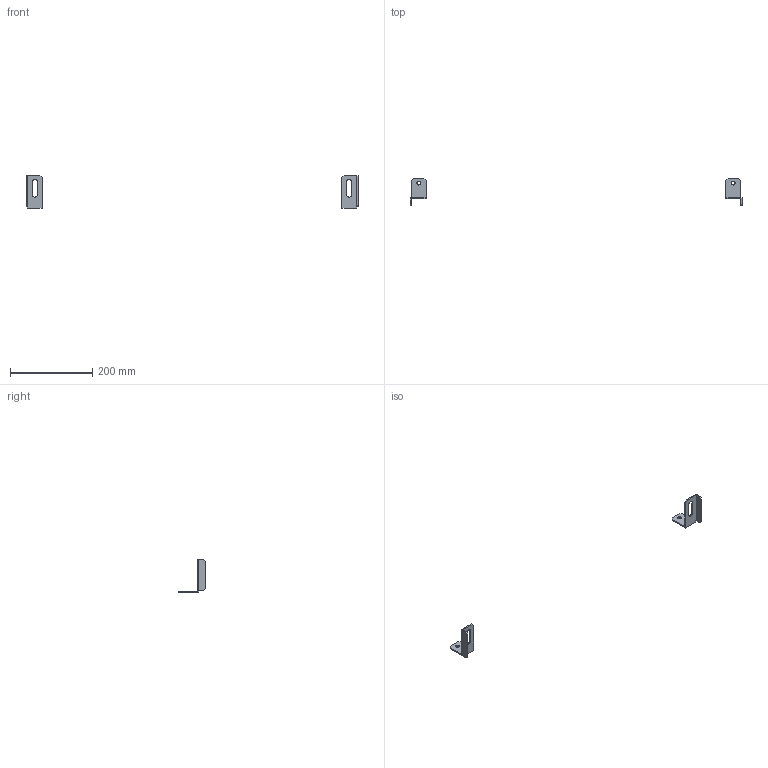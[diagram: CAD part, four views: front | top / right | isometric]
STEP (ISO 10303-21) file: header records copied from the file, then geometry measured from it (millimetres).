
FILE_DESCRIPTION(('Open CASCADE Model'),'2;1');
FILE_NAME('Open CASCADE Shape Model','2025-03-31T08:49:39',('Author'),( 'Open CASCADE'),'Open CASCADE STEP processor 7.8','Open CASCADE 7.8' ,'Unknown');
FILE_SCHEMA(('AUTOMOTIVE_DESIGN { 1 0 10303 214 1 1 1 1 }'));
Length unit declared in the file: millimetre
Products named in the file (3): Compound1; Solid1; Solid2
Assembly tree (2 placements, depth 2):
  Compound1
    Solid1
    Solid2
Bounding box: 806.6 x 67 x 80 mm (x, y, z)
Volume: 32524.7 mm3; surface area: 24566 mm2
Topology: 2 solids, 2 shells, 56 faces, 156 edges, 104 vertices
Faces by surface type: plane 50, cylinder 6
Full cylindrical faces by diameter (mm): 9 x2
Entity records: 1830 total; most frequent: CARTESIAN_POINT 321, ORIENTED_EDGE 312, DIRECTION 284, EDGE_CURVE 156, LINE 142, VECTOR 142, VERTEX_POINT 104, AXIS2_PLACEMENT_3D 71
